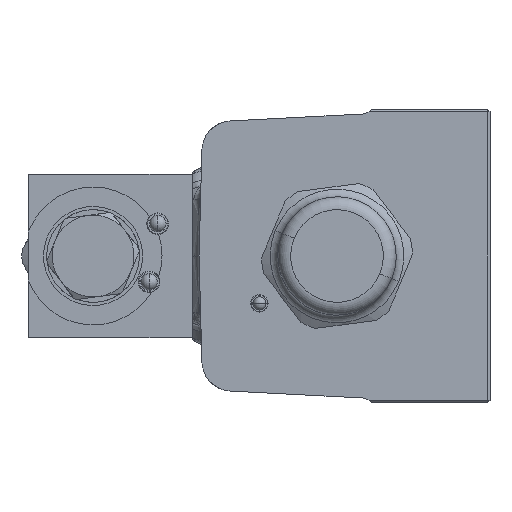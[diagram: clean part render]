
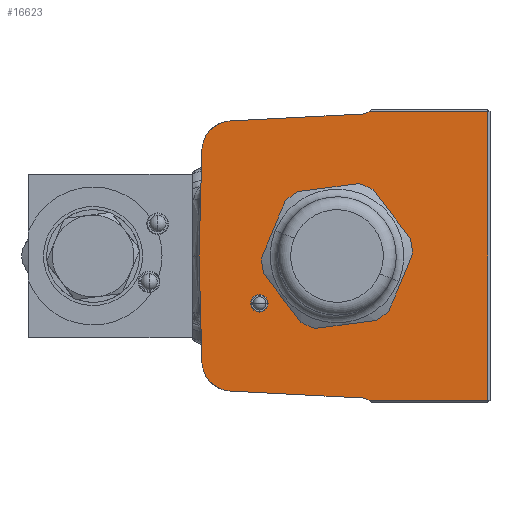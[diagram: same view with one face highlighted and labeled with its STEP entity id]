
A CAD part, left-side view. The second image highlights one B-rep face of the part: STEP entity #16623.
In plain terms, the highlighted planar face has unit normal (-1, 0, 0).
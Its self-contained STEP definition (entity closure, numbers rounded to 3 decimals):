
#314 = VERTEX_POINT ( 'NONE', #46082 ) ;
#1265 = ORIENTED_EDGE ( 'NONE', *, *, #56427, .T. ) ;
#1356 = CARTESIAN_POINT ( 'NONE',  ( -46.6, 24.36, 24.347 ) ) ;
#2809 = ORIENTED_EDGE ( 'NONE', *, *, #44199, .F. ) ;
#2963 = CARTESIAN_POINT ( 'NONE',  ( -46.6, 31.358, -24.53 ) ) ;
#4442 = VERTEX_POINT ( 'NONE', #50984 ) ;
#4524 = DIRECTION ( 'NONE',  ( 0., 0., 1. ) ) ;
#4798 = PLANE ( 'NONE',  #16523 ) ;
#4893 = CARTESIAN_POINT ( 'NONE',  ( -46.6, 0., 0. ) ) ;
#4979 = CIRCLE ( 'NONE', #43167, 7. ) ;
#5558 = DIRECTION ( 'NONE',  ( 0., -0.999, -0.052 ) ) ;
#5576 = LINE ( 'NONE', #48132, #29692 ) ;
#6090 = DIRECTION ( 'NONE',  ( 0., 0., 1. ) ) ;
#7384 = AXIS2_PLACEMENT_3D ( 'NONE', #11281, #45647, #16349 ) ;
#7991 = DIRECTION ( 'NONE',  ( 0., -0.999, 0.052 ) ) ;
#8053 = DIRECTION ( 'NONE',  ( -1., 0., 0. ) ) ;
#8243 = ORIENTED_EDGE ( 'NONE', *, *, #58517, .F. ) ;
#8498 = ORIENTED_EDGE ( 'NONE', *, *, #48840, .T. ) ;
#8751 = VERTEX_POINT ( 'NONE', #39901 ) ;
#8849 = CARTESIAN_POINT ( 'NONE',  ( -46.6, 1.706, 32.544 ) ) ;
#9202 = DIRECTION ( 'NONE',  ( 0., -0.026, 1. ) ) ;
#9255 = EDGE_LOOP ( 'NONE', ( #49708, #2809 ) ) ;
#9722 = DIRECTION ( 'NONE',  ( 0., -1., 0. ) ) ;
#10546 = CARTESIAN_POINT ( 'NONE',  ( -46.6, -7.444, -33.5 ) ) ;
#10957 = AXIS2_PLACEMENT_3D ( 'NONE', #37484, #8053, #42464 ) ;
#11281 = CARTESIAN_POINT ( 'NONE',  ( -46.6, 0., 0. ) ) ;
#11335 = DIRECTION ( 'NONE',  ( -1., 0., 0. ) ) ;
#12715 = CARTESIAN_POINT ( 'NONE',  ( -46.6, -5.693, -35.936 ) ) ;
#13017 = ORIENTED_EDGE ( 'NONE', *, *, #57046, .T. ) ;
#13383 = CARTESIAN_POINT ( 'NONE',  ( -46.6, 31.358, 24.53 ) ) ;
#13937 = CARTESIAN_POINT ( 'NONE',  ( -46.6, 24.726, -31.337 ) ) ;
#14025 = CARTESIAN_POINT ( 'NONE',  ( -46.6, 18., -9. ) ) ;
#14393 = CARTESIAN_POINT ( 'NONE',  ( -46.6, 18., -13. ) ) ;
#15089 = VERTEX_POINT ( 'NONE', #14025 ) ;
#16349 = DIRECTION ( 'NONE',  ( 0., -1., 0. ) ) ;
#16523 = AXIS2_PLACEMENT_3D ( 'NONE', #62796, #62725, #62585 ) ;
#16623 = ADVANCED_FACE ( 'NONE', ( #54991, #55165, #54914 ), #4798, .T. ) ;
#16766 = CIRCLE ( 'NONE', #46735, 3. ) ;
#17380 = CARTESIAN_POINT ( 'NONE',  ( -46.6, 31.978, -0.837 ) ) ;
#17544 = CARTESIAN_POINT ( 'NONE',  ( -46.6, 24.726, 31.337 ) ) ;
#17759 = DIRECTION ( 'NONE',  ( 0., 0., 1. ) ) ;
#18870 = DIRECTION ( 'NONE',  ( 0., 1., 0. ) ) ;
#19264 = ORIENTED_EDGE ( 'NONE', *, *, #56413, .T. ) ;
#19810 = VERTEX_POINT ( 'NONE', #17544 ) ;
#20133 = CARTESIAN_POINT ( 'NONE',  ( -46.6, -5.693, 35.936 ) ) ;
#22428 = CIRCLE ( 'NONE', #36703, 2. ) ;
#23997 = CIRCLE ( 'NONE', #7384, 16. ) ;
#24903 = DIRECTION ( 'NONE',  ( 0., 0., 1. ) ) ;
#25000 = ORIENTED_EDGE ( 'NONE', *, *, #57869, .F. ) ;
#25084 = CARTESIAN_POINT ( 'NONE',  ( -46.6, 1.706, -32.544 ) ) ;
#25658 = VECTOR ( 'NONE', #5558, 1000. ) ;
#26190 = DIRECTION ( 'NONE',  ( 1., 0., 0. ) ) ;
#27197 = VERTEX_POINT ( 'NONE', #29243 ) ;
#29038 = LINE ( 'NONE', #25084, #25658 ) ;
#29074 = VERTEX_POINT ( 'NONE', #10546 ) ;
#29243 = CARTESIAN_POINT ( 'NONE',  ( -46.6, 16., 0. ) ) ;
#29692 = VECTOR ( 'NONE', #18870, 1000. ) ;
#30265 = ORIENTED_EDGE ( 'NONE', *, *, #52686, .F. ) ;
#30947 = LINE ( 'NONE', #8849, #51660 ) ;
#31453 = ORIENTED_EDGE ( 'NONE', *, *, #57973, .F. ) ;
#32120 = VERTEX_POINT ( 'NONE', #32128 ) ;
#32128 = CARTESIAN_POINT ( 'NONE',  ( -46.6, -35., -33.5 ) ) ;
#32684 = VERTEX_POINT ( 'NONE', #13383 ) ;
#33134 = LINE ( 'NONE', #17380, #49581 ) ;
#33491 = EDGE_LOOP ( 'NONE', ( #19264, #1265, #33650, #34905, #13017, #38269, #42706, #25000, #8498, #31453, #53852 ) ) ;
#33645 = CARTESIAN_POINT ( 'NONE',  ( -46.6, 31.978, 0.837 ) ) ;
#33650 = ORIENTED_EDGE ( 'NONE', *, *, #56591, .T. ) ;
#33769 = CARTESIAN_POINT ( 'NONE',  ( -46.6, -35., -34. ) ) ;
#34905 = ORIENTED_EDGE ( 'NONE', *, *, #56959, .T. ) ;
#35106 = AXIS2_PLACEMENT_3D ( 'NONE', #4893, #39093, #9722 ) ;
#35441 = DIRECTION ( 'NONE',  ( -1., 0., 0. ) ) ;
#35718 = VECTOR ( 'NONE', #4524, 1000. ) ;
#36703 = AXIS2_PLACEMENT_3D ( 'NONE', #40646, #11335, #45694 ) ;
#37484 = CARTESIAN_POINT ( 'NONE',  ( -46.6, 18., -11. ) ) ;
#38269 = ORIENTED_EDGE ( 'NONE', *, *, #57284, .F. ) ;
#39093 = DIRECTION ( 'NONE',  ( -1., 0., 0. ) ) ;
#39769 = CARTESIAN_POINT ( 'NONE',  ( -46.6, -5.85, -32.94 ) ) ;
#39901 = CARTESIAN_POINT ( 'NONE',  ( -46.6, -5.85, 32.94 ) ) ;
#39997 = EDGE_LOOP ( 'NONE', ( #8243, #30265 ) ) ;
#40267 = AXIS2_PLACEMENT_3D ( 'NONE', #55495, #26190, #60400 ) ;
#40646 = CARTESIAN_POINT ( 'NONE',  ( -46.6, 18., -11. ) ) ;
#42045 = DIRECTION ( 'NONE',  ( 0., -1., 0. ) ) ;
#42307 = VECTOR ( 'NONE', #42045, 1000. ) ;
#42464 = DIRECTION ( 'NONE',  ( 0., 0., 1. ) ) ;
#42540 = LINE ( 'NONE', #61391, #42307 ) ;
#42706 = ORIENTED_EDGE ( 'NONE', *, *, #57468, .T. ) ;
#43167 = AXIS2_PLACEMENT_3D ( 'NONE', #1356, #35441, #6090 ) ;
#43358 = CIRCLE ( 'NONE', #50973, 3. ) ;
#43722 = CIRCLE ( 'NONE', #35106, 16. ) ;
#44199 = EDGE_CURVE ( 'NONE', #27197, #314, #23997, .T. ) ;
#45288 = CIRCLE ( 'NONE', #40267, 7. ) ;
#45647 = DIRECTION ( 'NONE',  ( -1., 0., 0. ) ) ;
#45694 = DIRECTION ( 'NONE',  ( 0., 0., 1. ) ) ;
#46082 = CARTESIAN_POINT ( 'NONE',  ( -46.6, -16., 0. ) ) ;
#46735 = AXIS2_PLACEMENT_3D ( 'NONE', #20133, #54194, #24903 ) ;
#47055 = DIRECTION ( 'NONE',  ( 1., 0., 0. ) ) ;
#47191 = VERTEX_POINT ( 'NONE', #13937 ) ;
#48132 = CARTESIAN_POINT ( 'NONE',  ( -46.6, -35.5, 33.5 ) ) ;
#48840 = EDGE_CURVE ( 'NONE', #4442, #55866, #33134, .T. ) ;
#49581 = VECTOR ( 'NONE', #61063, 1000. ) ;
#49708 = ORIENTED_EDGE ( 'NONE', *, *, #58784, .F. ) ;
#50542 = VERTEX_POINT ( 'NONE', #39769 ) ;
#50973 = AXIS2_PLACEMENT_3D ( 'NONE', #12715, #47055, #17759 ) ;
#50984 = CARTESIAN_POINT ( 'NONE',  ( -46.6, 32., 0. ) ) ;
#51660 = VECTOR ( 'NONE', #7991, 1000. ) ;
#52686 = EDGE_CURVE ( 'NONE', #58761, #15089, #58304, .T. ) ;
#52998 = VERTEX_POINT ( 'NONE', #54797 ) ;
#53364 = VECTOR ( 'NONE', #9202, 1000. ) ;
#53419 = LINE ( 'NONE', #33645, #53364 ) ;
#53464 = VERTEX_POINT ( 'NONE', #62924 ) ;
#53852 = ORIENTED_EDGE ( 'NONE', *, *, #58418, .T. ) ;
#54194 = DIRECTION ( 'NONE',  ( 1., 0., 0. ) ) ;
#54797 = CARTESIAN_POINT ( 'NONE',  ( -46.6, -35., 33.5 ) ) ;
#54914 = FACE_BOUND ( 'NONE', #9255, .T. ) ;
#54991 = FACE_OUTER_BOUND ( 'NONE', #33491, .T. ) ;
#55165 = FACE_BOUND ( 'NONE', #39997, .T. ) ;
#55495 = CARTESIAN_POINT ( 'NONE',  ( -46.6, 24.36, -24.347 ) ) ;
#55866 = VERTEX_POINT ( 'NONE', #2963 ) ;
#56413 = EDGE_CURVE ( 'NONE', #50542, #29074, #43358, .T. ) ;
#56427 = EDGE_CURVE ( 'NONE', #29074, #32120, #42540, .T. ) ;
#56591 = EDGE_CURVE ( 'NONE', #32120, #52998, #57626, .T. ) ;
#56959 = EDGE_CURVE ( 'NONE', #52998, #53464, #5576, .T. ) ;
#57046 = EDGE_CURVE ( 'NONE', #53464, #8751, #16766, .T. ) ;
#57284 = EDGE_CURVE ( 'NONE', #19810, #8751, #30947, .T. ) ;
#57468 = EDGE_CURVE ( 'NONE', #19810, #32684, #4979, .T. ) ;
#57626 = LINE ( 'NONE', #33769, #35718 ) ;
#57869 = EDGE_CURVE ( 'NONE', #4442, #32684, #53419, .T. ) ;
#57973 = EDGE_CURVE ( 'NONE', #47191, #55866, #45288, .T. ) ;
#58304 = CIRCLE ( 'NONE', #10957, 2. ) ;
#58418 = EDGE_CURVE ( 'NONE', #47191, #50542, #29038, .T. ) ;
#58517 = EDGE_CURVE ( 'NONE', #15089, #58761, #22428, .T. ) ;
#58761 = VERTEX_POINT ( 'NONE', #14393 ) ;
#58784 = EDGE_CURVE ( 'NONE', #314, #27197, #43722, .T. ) ;
#60400 = DIRECTION ( 'NONE',  ( 0., 0., 1. ) ) ;
#61063 = DIRECTION ( 'NONE',  ( 0., -0.026, -1. ) ) ;
#61391 = CARTESIAN_POINT ( 'NONE',  ( -46.6, -35.5, -33.5 ) ) ;
#62585 = DIRECTION ( 'NONE',  ( 0., 0., 1. ) ) ;
#62725 = DIRECTION ( 'NONE',  ( -1., 0., 0. ) ) ;
#62796 = CARTESIAN_POINT ( 'NONE',  ( -46.6, -35.5, -34. ) ) ;
#62924 = CARTESIAN_POINT ( 'NONE',  ( -46.6, -7.444, 33.5 ) ) ;
